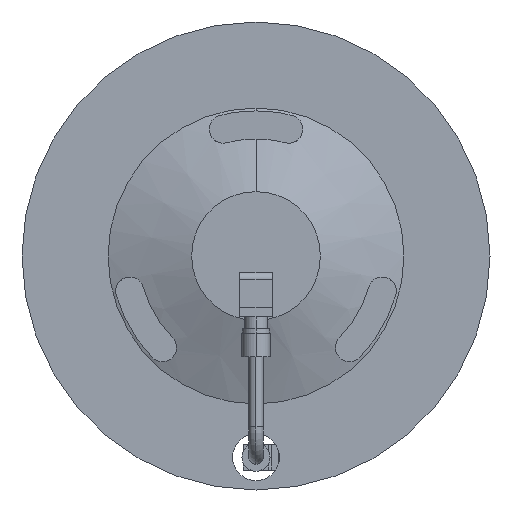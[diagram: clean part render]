
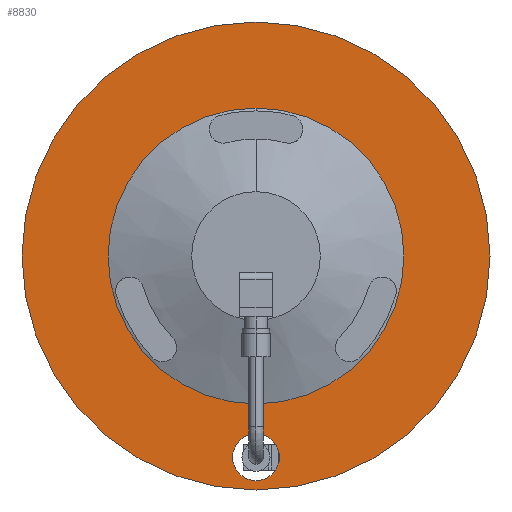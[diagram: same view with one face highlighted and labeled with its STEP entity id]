
A CAD part, front view. The second image highlights one B-rep face of the part: STEP entity #8830.
In plain terms, the highlighted planar face has unit normal (0, -1, 0).
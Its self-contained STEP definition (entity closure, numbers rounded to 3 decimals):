
#177 = DIRECTION ( 'NONE',  ( 0., 1., 0. ) ) ;
#240 = FACE_BOUND ( 'NONE', #11042, .T. ) ;
#444 = CARTESIAN_POINT ( 'NONE',  ( 0., -129.3, -76. ) ) ;
#510 = VERTEX_POINT ( 'NONE', #444 ) ;
#637 = CARTESIAN_POINT ( 'NONE',  ( 0., -129.3, -63.217 ) ) ;
#1009 = PLANE ( 'NONE',  #7113 ) ;
#1421 = CARTESIAN_POINT ( 'NONE',  ( 0., -129.3, -86. ) ) ;
#1431 = DIRECTION ( 'NONE',  ( 0., -1., 0. ) ) ;
#2481 = VERTEX_POINT ( 'NONE', #637 ) ;
#2641 = DIRECTION ( 'NONE',  ( 0., 0., -1. ) ) ;
#3180 = CIRCLE ( 'NONE', #4507, 63.217 ) ;
#3181 = DIRECTION ( 'NONE',  ( 0., -1., 0. ) ) ;
#3286 = EDGE_CURVE ( 'NONE', #510, #12000, #13165, .T. ) ;
#3717 = CARTESIAN_POINT ( 'NONE',  ( 0., -129.3, -96. ) ) ;
#3726 = EDGE_LOOP ( 'NONE', ( #7193, #12054 ) ) ;
#3890 = VERTEX_POINT ( 'NONE', #4170 ) ;
#3911 = AXIS2_PLACEMENT_3D ( 'NONE', #5925, #11093, #8941 ) ;
#4170 = CARTESIAN_POINT ( 'NONE',  ( 0., -129.3, 100. ) ) ;
#4195 = EDGE_CURVE ( 'NONE', #6951, #3890, #10461, .T. ) ;
#4507 = AXIS2_PLACEMENT_3D ( 'NONE', #7184, #6122, #2641 ) ;
#4782 = CARTESIAN_POINT ( 'NONE',  ( 0., -129.3, -86. ) ) ;
#5299 = ORIENTED_EDGE ( 'NONE', *, *, #5589, .F. ) ;
#5329 = ORIENTED_EDGE ( 'NONE', *, *, #13688, .F. ) ;
#5467 = CIRCLE ( 'NONE', #3911, 63.217 ) ;
#5589 = EDGE_CURVE ( 'NONE', #12000, #510, #10512, .T. ) ;
#5673 = EDGE_LOOP ( 'NONE', ( #9751, #5299 ) ) ;
#5880 = EDGE_CURVE ( 'NONE', #2481, #7611, #3180, .T. ) ;
#5925 = CARTESIAN_POINT ( 'NONE',  ( 0., -129.3, 0. ) ) ;
#6122 = DIRECTION ( 'NONE',  ( 0., -1., 0. ) ) ;
#6288 = AXIS2_PLACEMENT_3D ( 'NONE', #1421, #6944, #7986 ) ;
#6604 = CARTESIAN_POINT ( 'NONE',  ( 0., -129.3, 0. ) ) ;
#6944 = DIRECTION ( 'NONE',  ( 0., -1., 0. ) ) ;
#6951 = VERTEX_POINT ( 'NONE', #13773 ) ;
#7113 = AXIS2_PLACEMENT_3D ( 'NONE', #8622, #3181, #8488 ) ;
#7184 = CARTESIAN_POINT ( 'NONE',  ( 0., -129.3, 0. ) ) ;
#7193 = ORIENTED_EDGE ( 'NONE', *, *, #11301, .F. ) ;
#7611 = VERTEX_POINT ( 'NONE', #10016 ) ;
#7646 = FACE_OUTER_BOUND ( 'NONE', #3726, .T. ) ;
#7937 = DIRECTION ( 'NONE',  ( 0., 1., 0. ) ) ;
#7986 = DIRECTION ( 'NONE',  ( 0., 0., -1. ) ) ;
#8007 = DIRECTION ( 'NONE',  ( 0., 0., 1. ) ) ;
#8078 = CARTESIAN_POINT ( 'NONE',  ( 0., -129.3, 0. ) ) ;
#8488 = DIRECTION ( 'NONE',  ( 0., 0., -1. ) ) ;
#8622 = CARTESIAN_POINT ( 'NONE',  ( -100., -129.3, 0. ) ) ;
#8710 = DIRECTION ( 'NONE',  ( 0., 0., 1. ) ) ;
#8830 = ADVANCED_FACE ( 'NONE', ( #10569, #240, #7646 ), #1009, .T. ) ;
#8919 = AXIS2_PLACEMENT_3D ( 'NONE', #6604, #177, #8710 ) ;
#8941 = DIRECTION ( 'NONE',  ( 0., 0., -1. ) ) ;
#9751 = ORIENTED_EDGE ( 'NONE', *, *, #3286, .F. ) ;
#9951 = CIRCLE ( 'NONE', #10845, 100. ) ;
#10016 = CARTESIAN_POINT ( 'NONE',  ( 0., -129.3, 63.217 ) ) ;
#10461 = CIRCLE ( 'NONE', #8919, 100. ) ;
#10512 = CIRCLE ( 'NONE', #6288, 10. ) ;
#10569 = FACE_BOUND ( 'NONE', #5673, .T. ) ;
#10845 = AXIS2_PLACEMENT_3D ( 'NONE', #8078, #7937, #8007 ) ;
#11042 = EDGE_LOOP ( 'NONE', ( #5329, #11511 ) ) ;
#11093 = DIRECTION ( 'NONE',  ( 0., -1., 0. ) ) ;
#11301 = EDGE_CURVE ( 'NONE', #3890, #6951, #9951, .T. ) ;
#11511 = ORIENTED_EDGE ( 'NONE', *, *, #5880, .F. ) ;
#12000 = VERTEX_POINT ( 'NONE', #3717 ) ;
#12054 = ORIENTED_EDGE ( 'NONE', *, *, #4195, .F. ) ;
#12121 = DIRECTION ( 'NONE',  ( 0., 0., -1. ) ) ;
#13165 = CIRCLE ( 'NONE', #13618, 10. ) ;
#13618 = AXIS2_PLACEMENT_3D ( 'NONE', #4782, #1431, #12121 ) ;
#13688 = EDGE_CURVE ( 'NONE', #7611, #2481, #5467, .T. ) ;
#13773 = CARTESIAN_POINT ( 'NONE',  ( 0., -129.3, -100. ) ) ;
